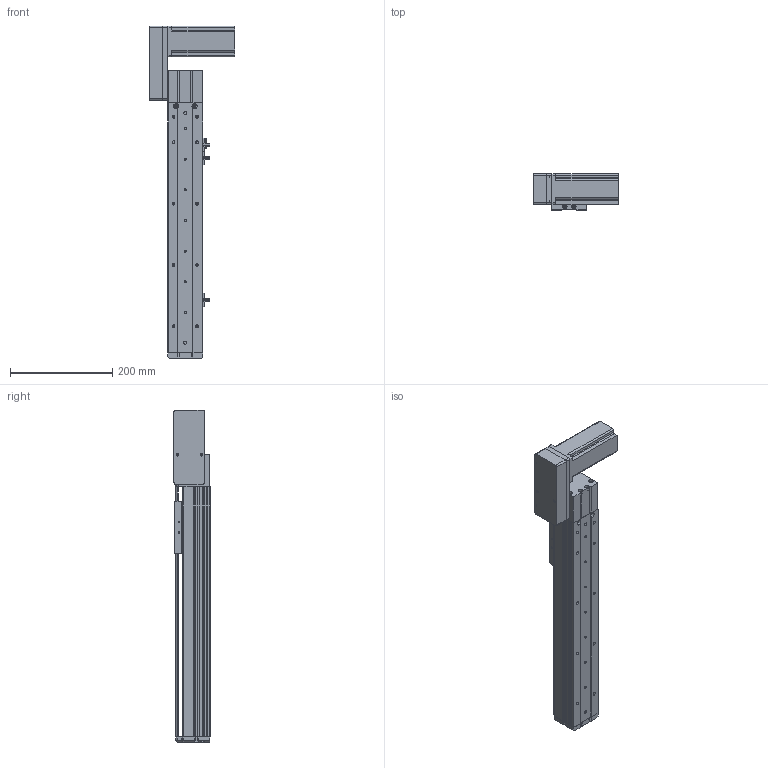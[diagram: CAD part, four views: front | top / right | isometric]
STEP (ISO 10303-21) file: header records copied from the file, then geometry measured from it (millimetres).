
FILE_DESCRIPTION (( 'STEP AP214' ), '1' );
FILE_NAME ('KSD68BS-S300-MRB-CM.STEP', '2019-08-22T05:46:33', ( '微软用户' ), ( '微软中国' ), 'SwSTEP 2.0', 'SolidWorks 2014', '' );
FILE_SCHEMA (( 'AUTOMOTIVE_DESIGN' ));
Length unit declared in the file: millimetre
Products named in the file (11): 台达ECMA－C20604AS伺服电机（400W); KSD68BS 300俴最菁啣圉猾敕; KSD68BS-S300-MRB-CM; 悵誘欶奻狟殏; 68宽马达安装板连板上折同步带; 68宽单导轨半封闭同步带主动轮座右; 68单导轨同步带半封闭端板; KSD68BS 300俴最裔啣圉猾敕; 覜茼え68遵圉猾敕; KSD68BS半封闭同步带传动导轨座; U倰嫖萇EEㄜSX672
Assembly tree (12 placements, depth 2):
  KSD68BS-S300-MRB-CM
    KSD68BS 300俴最菁啣圉猾敕
    台达ECMA－C20604AS伺服电机（400W)
    U倰嫖萇EEㄜSX672  x3
    KSD68BS半封闭同步带传动导轨座
    覜茼え68遵圉猾敕
    KSD68BS 300俴最裔啣圉猾敕
    68单导轨同步带半封闭端板
    68宽单导轨半封闭同步带主动轮座右
    68宽马达安装板连板上折同步带
    悵誘欶奻狟殏
Bounding box: 167.2 x 70.5 x 649.5 mm (x, y, z)
Volume: 1486949.6 mm3; surface area: 459606.6 mm2
Topology: 13 solids, 13 shells, 1242 faces, 3508 edges, 2276 vertices
Faces by surface type: cylinder 590, plane 569, cone 83
Entity records: 43303 total; most frequent: CARTESIAN_POINT 7822, DIRECTION 5812, ORIENTED_EDGE 5768, EDGE_CURVE 2884, AXIS2_PLACEMENT_3D 2074, VERTEX_POINT 1900, LINE 1664, VECTOR 1664
